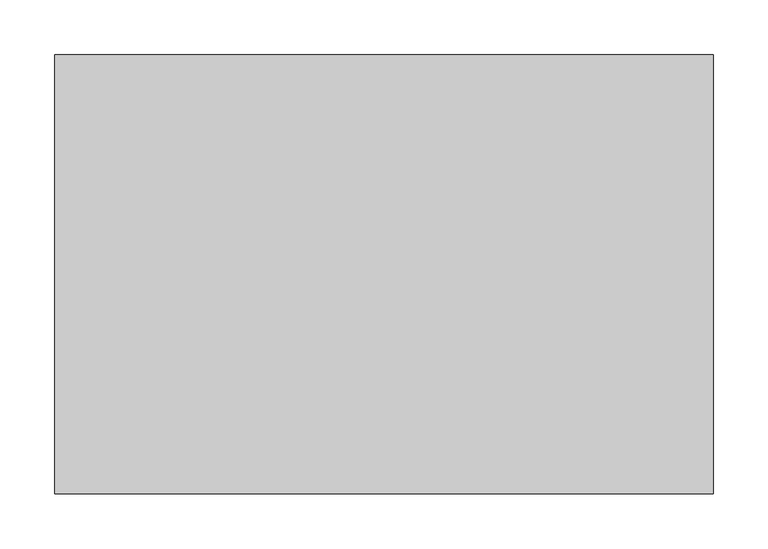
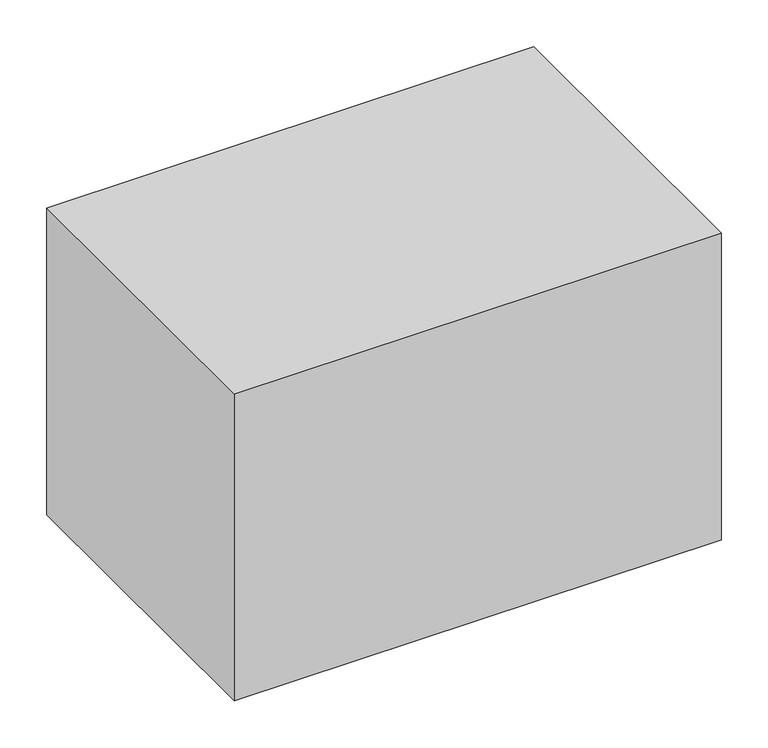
"""IFC4 building model written with IfcOpenShell, lengths in millimetres: proxy geometry, Movél15 : Movél."""

from ifc_helpers import new_model, si_unit, frame, origin, place, context, project, spatial, polyline, outline, extrude, source, transform, mapped, element, save


def generic_models_33ce3bc0(model_context):
    return source(origin(), model_context, "Body", "SweptSolid", [
        extrude(outline(polyline([(34358.421149, 22026.5765577), (34358.421149, 21626.5765577), (33758.421149, 21626.5765577), (33758.421149, 22026.5765577), (34358.421149, 22026.5765577)])), frame((0.0, 0.0, 400.0), z_axis=(0.0, 0.0, 1.0), x_axis=(1.0, 0.0, 0.0)), (0.0, 0.0, 1.0), 400.0),
    ])


if __name__ == "__main__":
    model = new_model("IFC4")
    model_context = context("Model", 3, world=origin())
    ifc_project = project(units=[si_unit("LENGTHUNIT", "METRE", prefix="MILLI")], contexts=[model_context])
    site = spatial("IfcSite", under=ifc_project)
    building = spatial("IfcBuilding", under=site)
    placement = place(None, origin())
    generic_models_shape = generic_models_33ce3bc0(model_context)
    element("IfcBuildingElementProxy", 1, Name="Movél15 : Movél", ObjectType="Movél15 : Movél", at=placement, inside=building, context=model_context, shape_type="MappedRepresentation", body=[
        mapped(generic_models_shape, transform((0.0, 0.0, 0.0), x_axis=(1.0, 0.0, 0.0), y_axis=(0.0, 1.0, 0.0), z_axis=(0.0, 0.0, 1.0))),
    ])
    save(model, "model.ifc")
